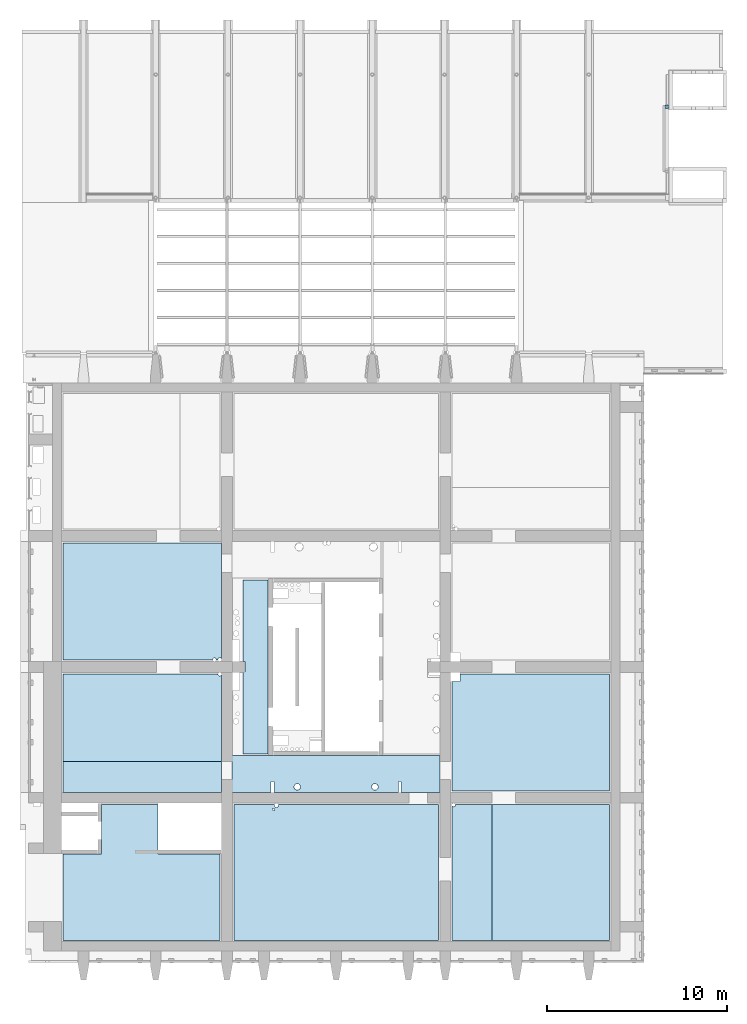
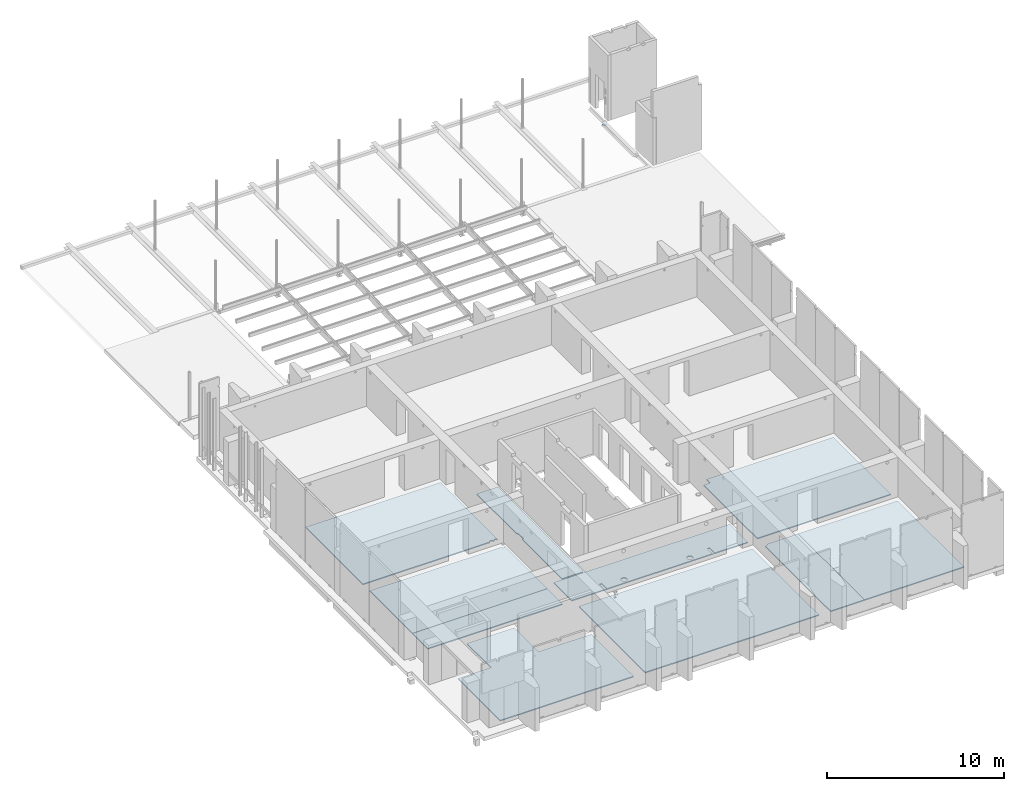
# One storey, part 23 of 31: 10 slabs, 1 beam, 58 openings.
"""IFC2X3 building model written with IfcOpenShell, lengths in millimetres."""

from ifc_helpers import new_model, entity, si_unit, converted_unit, derived_unit, direction, frame, frame_2d, origin, origin_2d_with_axis, place, context, subcontext, project, spatial, polyline, rectangle, circle, outline, extrude, source, transform, mapped, material, layer, layer_set, layer_usage, type_object, type_shapes, element, save


model = new_model("IFC2X3")

# Units and contexts
model_context = context("Model", 3, precision=0.01, world=origin(), true_north=direction((6.12303176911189e-17, 1.0)))
body_context = subcontext(model_context, "Body", "Model", "MODEL_VIEW")
ifc_project = project(units=[si_unit("LENGTHUNIT", "METRE", prefix="MILLI"), si_unit("AREAUNIT", "SQUARE_METRE"), si_unit("VOLUMEUNIT", "CUBIC_METRE"), converted_unit("PLANEANGLEUNIT", "DEGREE", entity("IfcRatioMeasure", 0.0174532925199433), si_unit("PLANEANGLEUNIT", "RADIAN"), dimensions=[0, 0, 0, 0, 0, 0, 0]), si_unit("MASSUNIT", "GRAM", prefix="KILO"), derived_unit("MASSDENSITYUNIT", [(si_unit("MASSUNIT", "GRAM", prefix="KILO"), 1), (si_unit("LENGTHUNIT", "METRE"), -3)]), si_unit("TIMEUNIT", "SECOND"), si_unit("FREQUENCYUNIT", "HERTZ"), si_unit("THERMODYNAMICTEMPERATUREUNIT", "DEGREE_CELSIUS"), derived_unit("THERMALTRANSMITTANCEUNIT", [(si_unit("MASSUNIT", "GRAM", prefix="KILO"), 1), (si_unit("THERMODYNAMICTEMPERATUREUNIT", "KELVIN"), -1), (si_unit("TIMEUNIT", "SECOND"), -3)]), derived_unit("VOLUMETRICFLOWRATEUNIT", [(si_unit("LENGTHUNIT", "METRE"), 3), (si_unit("TIMEUNIT", "SECOND"), -1)]), si_unit("ELECTRICCURRENTUNIT", "AMPERE"), si_unit("ELECTRICVOLTAGEUNIT", "VOLT"), si_unit("POWERUNIT", "WATT"), si_unit("FORCEUNIT", "NEWTON", prefix="KILO"), si_unit("ILLUMINANCEUNIT", "LUX"), si_unit("LUMINOUSFLUXUNIT", "LUMEN"), si_unit("LUMINOUSINTENSITYUNIT", "CANDELA"), derived_unit("USERDEFINED", [(si_unit("MASSUNIT", "GRAM", prefix="KILO"), -1), (si_unit("LENGTHUNIT", "METRE"), -2), (si_unit("TIMEUNIT", "SECOND"), 3), (si_unit("LUMINOUSFLUXUNIT", "LUMEN"), 1)]), derived_unit("LINEARVELOCITYUNIT", [(si_unit("LENGTHUNIT", "METRE"), 1), (si_unit("TIMEUNIT", "SECOND"), -1)]), si_unit("PRESSUREUNIT", "PASCAL"), derived_unit("USERDEFINED", [(si_unit("LENGTHUNIT", "METRE"), -2), (si_unit("MASSUNIT", "GRAM", prefix="KILO"), 1), (si_unit("TIMEUNIT", "SECOND"), -2)])], contexts=[model_context])

# Site, building, storey
site_placement = place(None, origin())
site = spatial("IfcSite", under=ifc_project, at=site_placement, Name="Default", CompositionType="ELEMENT")
building_placement = place(site_placement, origin())
building = spatial("IfcBuilding", under=site, at=building_placement, Name="niet gebruiken", CompositionType="ELEMENT")
storey_placement = place(building_placement, frame((0.0, 0.0, 12000.0)))
storey = spatial("IfcBuildingStorey", under=building, at=storey_placement, Name="03 derde verdieping", CompositionType="ELEMENT", Elevation=12000.0)

# Beam
ifc_material_1 = material(Name="NLRS_h2_staal")
beam_type = type_object("IfcBeamType", Name="ligger stripstaal RECT_200x20", PredefinedType="BEAM", material=ifc_material_1)
shared_shape = source(origin(), body_context, "Body", "SweptSolid", [
    extrude(rectangle(XDim=199.999999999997, YDim=200.0, at=origin_2d_with_axis()), frame((0.0, 0.0, -10.0), z_axis=(0.0, 0.0, 1.0), x_axis=(-1.0, 0.0, 0.0)), (0.0, 0.0, 1.0), 20.0),
    extrude(rectangle(XDim=199.999999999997, YDim=200.0, at=origin_2d_with_axis()), frame((0.0, 0.0, -10.0), z_axis=(0.0, 0.0, 1.0), x_axis=(-1.0, 0.0, 0.0)), (0.0, 0.0, 1.0), 20.0),
])
type_shapes(beam_type, [shared_shape])
beam_placement = place(storey_placement, frame((160070.0, 48550.0, 1115.0), z_axis=(0.0, 0.0, 1.0), x_axis=(0.0, -1.0, 0.0)))
element("IfcBeam", 1, at=beam_placement, inside=storey, type_object=beam_type, material=ifc_material_1, Name="NLRS_28.11_SF_WPB_stalen ligger stripstaal_gen:ligger stripstaal RECT_200x20", ObjectType="ligger stripstaal RECT_200x20", context=body_context, shape_type="MappedRepresentation", body=[
    mapped(shared_shape, transform((0.0, 0.0, 0.0), scale=1.0)),
])

# Slab, openings
ifc_material_2 = material(Name="NLRS_f2_beton prefab")
ifc_layer = layer(ifc_material_2, 70.0)
ifc_layer_set = layer_set([ifc_layer], Name="Floor:NLRS_23.21_FL_breedplaat d=70_gen")
ifc_layer_usage_1 = layer_usage(ifc_layer_set, "AXIS3", "POSITIVE", 0.0)
slab_1_placement = place(storey_placement, frame((126600.0, 2350.0, -360.0)))
slab_1 = element("IfcSlab", 2, at=slab_1_placement, inside=storey, material=ifc_layer_usage_1, Name="Floor:NLRS_23.21_FL_breedplaat d=70_gen", ObjectType="Floor:NLRS_23.21_FL_breedplaat d=70_gen", PredefinedType="FLOOR", context=body_context, shape_type="SweptSolid", body=[
    extrude(outline(polyline([(3180.0, -4958.0), (11900.0, -4958.0), (11900.0, -178.0), (9740.0, -178.0), (9740.0, 2562.0), (6630.0, 2562.0), (6630.0, -178.0), (3180.0, -178.0), (3180.0, -4958.0)])), frame((11900.0, 4958.0, 70.0), z_axis=(0.0, 0.0, -1.0), x_axis=(-1.0, 0.0, 0.0)), (0.0, 0.0, 1.0), 69.9999999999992),
])
placement_1 = place(slab_1_placement, origin())
element("IfcOpeningElement", 3, at=placement_1, cuts=slab_1, ObjectType="Opening", context=body_context, shape_type="SweptSolid", body=[
    extrude(circle(Radius=100.0, at=origin_2d_with_axis()), frame((21660.0, 7500.0, 0.0), z_axis=(0.0, 0.0, 1.0), x_axis=(0.0, 1.0, 0.0)), (0.0, 0.0, 1.0), 269.999999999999),
])
placement_2 = place(slab_1_placement, origin())
element("IfcOpeningElement", 4, at=placement_2, cuts=slab_1, ObjectType="Opening", context=body_context, shape_type="SweptSolid", body=[
    extrude(circle(Radius=120.0, at=origin_2d_with_axis()), frame((11840.0, 7480.0, 0.0), z_axis=(0.0, 0.0, 1.0), x_axis=(0.0, 1.0, 0.0)), (0.0, 0.0, 1.0), 269.999999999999),
])
placement_3 = place(slab_1_placement, origin())
element("IfcOpeningElement", 5, at=placement_3, cuts=slab_1, ObjectType="Opening", context=body_context, shape_type="SweptSolid", body=[
    extrude(circle(Radius=62.5, at=origin_2d_with_axis()), frame((11682.0, 7250.0, 0.0), z_axis=(0.0, 0.0, 1.0), x_axis=(0.0, 1.0, 0.0)), (0.0, 0.0, 1.0), 269.999999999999),
])

slab_2_placement = place(storey_placement, frame((126600.0, 2350.0, -360.0)))
slab_2 = element("IfcSlab", 6, at=slab_2_placement, inside=storey, material=ifc_layer_usage_1, Name="Floor:NLRS_23.21_FL_breedplaat d=70_gen:2", ObjectType="Floor:NLRS_23.21_FL_breedplaat d=70_gen", PredefinedType="FLOOR", context=body_context, shape_type="SweptSolid", body=[
    extrude(rectangle(XDim=7520.00000000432, YDim=2219.99999999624, at=frame_2d((-10790.0, -1198.0), x_axis=(0.0, -1.0))), frame((11900.0, 4958.0, 70.0), z_axis=(0.0, 0.0, -1.0), x_axis=(-1.0, 0.0, 0.0)), (0.0, 0.0, 1.0), 69.9999999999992),
])
element("IfcOpeningElement", 7, at=placement_1, cuts=slab_2, ObjectType="Opening", context=body_context, shape_type="SweptSolid", body=[
    extrude(circle(Radius=100.0, at=origin_2d_with_axis()), frame((21660.0, 7500.0, 0.0), z_axis=(0.0, 0.0, 1.0), x_axis=(0.0, 1.0, 0.0)), (0.0, 0.0, 1.0), 269.999999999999),
])
element("IfcOpeningElement", 8, at=placement_2, cuts=slab_2, ObjectType="Opening", context=body_context, shape_type="SweptSolid", body=[
    extrude(circle(Radius=120.0, at=origin_2d_with_axis()), frame((11840.0, 7480.0, 0.0), z_axis=(0.0, 0.0, 1.0), x_axis=(0.0, 1.0, 0.0)), (0.0, 0.0, 1.0), 269.999999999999),
])
element("IfcOpeningElement", 9, at=placement_3, cuts=slab_2, ObjectType="Opening", context=body_context, shape_type="SweptSolid", body=[
    extrude(circle(Radius=62.5, at=origin_2d_with_axis()), frame((11682.0, 7250.0, 0.0), z_axis=(0.0, 0.0, 1.0), x_axis=(0.0, 1.0, 0.0)), (0.0, 0.0, 1.0), 269.999999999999),
])

slab_3_placement = place(storey_placement, frame((126600.0, 2350.0, -360.0)))
slab_3 = element("IfcSlab", 10, at=slab_3_placement, inside=storey, material=ifc_layer_usage_1, Name="Floor:NLRS_23.21_FL_breedplaat d=70_gen:3", ObjectType="Floor:NLRS_23.21_FL_breedplaat d=70_gen", PredefinedType="FLOOR", context=body_context, shape_type="SweptSolid", body=[
    extrude(rectangle(XDim=7520.0000000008, YDim=11340.0000000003, at=frame_2d((-3250.0, -1198.0), x_axis=(0.0, 1.0))), frame((11900.0, 4958.0, 70.0), z_axis=(0.0, 0.0, -1.0), x_axis=(-1.0, 0.0, 0.0)), (0.0, 0.0, 1.0), 69.9999999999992),
])
element("IfcOpeningElement", 11, at=placement_1, cuts=slab_3, ObjectType="Opening", context=body_context, shape_type="SweptSolid", body=[
    extrude(circle(Radius=100.0, at=origin_2d_with_axis()), frame((21660.0, 7500.0, 0.0), z_axis=(0.0, 0.0, 1.0), x_axis=(0.0, 1.0, 0.0)), (0.0, 0.0, 1.0), 269.999999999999),
])
element("IfcOpeningElement", 12, at=placement_2, cuts=slab_3, ObjectType="Opening", context=body_context, shape_type="SweptSolid", body=[
    extrude(circle(Radius=120.0, at=origin_2d_with_axis()), frame((11840.0, 7480.0, 0.0), z_axis=(0.0, 0.0, 1.0), x_axis=(0.0, 1.0, 0.0)), (0.0, 0.0, 1.0), 269.999999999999),
])
element("IfcOpeningElement", 13, at=placement_3, cuts=slab_3, ObjectType="Opening", context=body_context, shape_type="SweptSolid", body=[
    extrude(circle(Radius=62.5, at=origin_2d_with_axis()), frame((11682.0, 7250.0, 0.0), z_axis=(0.0, 0.0, 1.0), x_axis=(0.0, 1.0, 0.0)), (0.0, 0.0, 1.0), 269.999999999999),
])

slab_4_placement = place(storey_placement, frame((126600.0, 2350.0, -360.0)))
slab_4 = element("IfcSlab", 14, at=slab_4_placement, inside=storey, material=ifc_layer_usage_1, Name="Floor:NLRS_23.21_FL_breedplaat d=70_gen:4", ObjectType="Floor:NLRS_23.21_FL_breedplaat d=70_gen", PredefinedType="FLOOR", context=body_context, shape_type="SweptSolid", body=[
    extrude(rectangle(XDim=8810.00000000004, YDim=1725.99999999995, at=frame_2d((7495.0, 4095.0), x_axis=(-1.0, 0.0))), frame((11900.0, 4958.0, 70.0), z_axis=(0.0, 0.0, -1.0), x_axis=(-1.0, 0.0, 0.0)), (0.0, 0.0, 1.0), 69.9999999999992),
])
element("IfcOpeningElement", 15, at=placement_1, cuts=slab_4, ObjectType="Opening", context=body_context, shape_type="SweptSolid", body=[
    extrude(circle(Radius=100.0, at=origin_2d_with_axis()), frame((21660.0, 7500.0, 0.0), z_axis=(0.0, 0.0, 1.0), x_axis=(0.0, 1.0, 0.0)), (0.0, 0.0, 1.0), 269.999999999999),
])
element("IfcOpeningElement", 16, at=placement_2, cuts=slab_4, ObjectType="Opening", context=body_context, shape_type="SweptSolid", body=[
    extrude(circle(Radius=120.0, at=origin_2d_with_axis()), frame((11840.0, 7480.0, 0.0), z_axis=(0.0, 0.0, 1.0), x_axis=(0.0, 1.0, 0.0)), (0.0, 0.0, 1.0), 269.999999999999),
])
element("IfcOpeningElement", 17, at=placement_3, cuts=slab_4, ObjectType="Opening", context=body_context, shape_type="SweptSolid", body=[
    extrude(circle(Radius=62.5, at=origin_2d_with_axis()), frame((11682.0, 7250.0, 0.0), z_axis=(0.0, 0.0, 1.0), x_axis=(0.0, 1.0, 0.0)), (0.0, 0.0, 1.0), 269.999999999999),
])

ifc_layer_usage_2 = layer_usage(ifc_layer_set, "AXIS3", "POSITIVE", 0.0)
slab_5_placement = place(storey_placement, frame((148180.0, 2350.0, -360.0)))
slab_5 = element("IfcSlab", 18, at=slab_5_placement, inside=storey, material=ifc_layer_usage_2, Name="Floor:NLRS_23.21_FL_breedplaat d=70_gen:2", ObjectType="Floor:NLRS_23.21_FL_breedplaat d=70_gen", PredefinedType="FLOOR", context=body_context, shape_type="SweptSolid", body=[
    extrude(rectangle(XDim=7520.00000000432, YDim=6499.99999999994, at=frame_2d((-1110.0, -8785.0), x_axis=(0.0, -1.0))), frame((4360.0, 12545.0, 70.0), z_axis=(0.0, 0.0, -1.0), x_axis=(-1.0, 0.0, 0.0)), (0.0, 0.0, 1.0), 69.9999999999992),
])
placement_4 = place(storey_placement, frame((148180.0, 2350.0, -360.0)))
placement_5 = place(placement_4, origin())
element("IfcOpeningElement", 19, at=placement_5, cuts=slab_5, ObjectType="Opening", context=body_context, shape_type="SweptSolid", body=[
    extrude(rectangle(XDim=500.000000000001, YDim=500.000000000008, at=origin_2d_with_axis()), frame((170.0, 14600.0, 0.0), z_axis=(0.0, 0.0, 1.0), x_axis=(0.0, 1.0, 0.0)), (0.0, 0.0, 1.0), 269.999999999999),
])
placement_6 = place(placement_4, origin())
element("IfcOpeningElement", 20, at=placement_6, cuts=slab_5, ObjectType="Opening", context=body_context, shape_type="SweptSolid", body=[
    extrude(rectangle(XDim=500.000000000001, YDim=500.000000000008, at=origin_2d_with_axis()), frame((170.0, 15700.0, 0.0), z_axis=(0.0, 0.0, 1.0), x_axis=(0.0, 1.0, 0.0)), (0.0, 0.0, 1.0), 269.999999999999),
])
placement_7 = place(placement_4, origin())
element("IfcOpeningElement", 21, at=placement_7, cuts=slab_5, ObjectType="Opening", context=body_context, shape_type="SweptSolid", body=[
    extrude(circle(Radius=100.0, at=origin_2d_with_axis()), frame((220.0, 22800.0, 0.0), z_axis=(0.0, 0.0, 1.0), x_axis=(0.0, 1.0, 0.0)), (0.0, 0.0, 1.0), 269.999999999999),
])
placement_8 = place(placement_4, origin())
element("IfcOpeningElement", 22, at=placement_8, cuts=slab_5, ObjectType="Opening", context=body_context, shape_type="SweptSolid", body=[
    extrude(circle(Radius=62.5, at=origin_2d_with_axis()), frame((70.0, 22950.0, 0.0), z_axis=(0.0, 0.0, 1.0), x_axis=(0.0, 1.0, 0.0)), (0.0, 0.0, 1.0), 269.999999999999),
])

slab_6_placement = place(storey_placement, frame((148180.0, 2350.0, -360.0)))
slab_6 = element("IfcSlab", 23, at=slab_6_placement, inside=storey, material=ifc_layer_usage_2, Name="Floor:NLRS_23.21_FL_breedplaat d=70_gen:3", ObjectType="Floor:NLRS_23.21_FL_breedplaat d=70_gen", PredefinedType="FLOOR", context=body_context, shape_type="SweptSolid", body=[
    extrude(rectangle(XDim=8719.99999999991, YDim=6489.99999999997, at=frame_2d((0.0, -1020.0), x_axis=(1.0, 0.0))), frame((4360.0, 12545.0, 70.0), z_axis=(0.0, 0.0, -1.0), x_axis=(-1.0, 0.0, 0.0)), (0.0, 0.0, 1.0), 69.9999999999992),
])
element("IfcOpeningElement", 24, at=placement_5, cuts=slab_6, ObjectType="Opening", context=body_context, shape_type="SweptSolid", body=[
    extrude(rectangle(XDim=500.000000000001, YDim=500.000000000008, at=origin_2d_with_axis()), frame((170.0, 14600.0, 0.0), z_axis=(0.0, 0.0, 1.0), x_axis=(0.0, 1.0, 0.0)), (0.0, 0.0, 1.0), 269.999999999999),
])
element("IfcOpeningElement", 25, at=placement_6, cuts=slab_6, ObjectType="Opening", context=body_context, shape_type="SweptSolid", body=[
    extrude(rectangle(XDim=500.000000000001, YDim=500.000000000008, at=origin_2d_with_axis()), frame((170.0, 15700.0, 0.0), z_axis=(0.0, 0.0, 1.0), x_axis=(0.0, 1.0, 0.0)), (0.0, 0.0, 1.0), 269.999999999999),
])
element("IfcOpeningElement", 26, at=placement_7, cuts=slab_6, ObjectType="Opening", context=body_context, shape_type="SweptSolid", body=[
    extrude(circle(Radius=100.0, at=origin_2d_with_axis()), frame((220.0, 22800.0, 0.0), z_axis=(0.0, 0.0, 1.0), x_axis=(0.0, 1.0, 0.0)), (0.0, 0.0, 1.0), 269.999999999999),
])
element("IfcOpeningElement", 27, at=placement_8, cuts=slab_6, ObjectType="Opening", context=body_context, shape_type="SweptSolid", body=[
    extrude(circle(Radius=62.5, at=origin_2d_with_axis()), frame((70.0, 22950.0, 0.0), z_axis=(0.0, 0.0, 1.0), x_axis=(0.0, 1.0, 0.0)), (0.0, 0.0, 1.0), 269.999999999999),
])

ifc_layer_usage_3 = layer_usage(ifc_layer_set, "AXIS3", "POSITIVE", 0.0)
slab_7_placement = place(storey_placement, frame((126600.0, 12266.0, -360.0)))
slab_7 = element("IfcSlab", 28, at=slab_7_placement, inside=storey, material=ifc_layer_usage_3, Name="Floor:NLRS_23.21_FL_breedplaat d=70_gen:2", ObjectType="Floor:NLRS_23.21_FL_breedplaat d=70_gen", PredefinedType="FLOOR", context=body_context, shape_type="SweptSolid", body=[
    extrude(rectangle(XDim=6490.00000000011, YDim=8810.00000000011, at=frame_2d((0.0, -1333.0), x_axis=(0.0, -1.0))), frame((4405.0, 10192.0, 70.0), z_axis=(0.0, 0.0, -1.0), x_axis=(-1.0, 0.0, 0.0)), (0.0, 0.0, 1.0), 69.9999999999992),
])
placement_9 = place(storey_placement, frame((126600.0, 12266.0, -360.0)))
placement_10 = place(placement_9, origin())
element("IfcOpeningElement", 29, at=placement_10, cuts=slab_7, ObjectType="Opening", context=body_context, shape_type="SweptSolid", body=[
    extrude(circle(Radius=100.0, at=origin_2d_with_axis()), frame((8400.0, 5634.0, 0.0), z_axis=(0.0, 0.0, 1.0), x_axis=(0.0, 1.0, 0.0)), (0.0, 0.0, 1.0), 269.999999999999),
])
placement_11 = place(placement_9, origin())
element("IfcOpeningElement", 30, at=placement_11, cuts=slab_7, ObjectType="Opening", context=body_context, shape_type="SweptSolid", body=[
    extrude(circle(Radius=100.0, at=origin_2d_with_axis()), frame((8700.0, 5634.0, 0.0), z_axis=(0.0, 0.0, 1.0), x_axis=(0.0, 1.0, 0.0)), (0.0, 0.0, 1.0), 269.999999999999),
])
placement_12 = place(placement_9, origin())
element("IfcOpeningElement", 31, at=placement_12, cuts=slab_7, ObjectType="Opening", context=body_context, shape_type="SweptSolid", body=[
    extrude(circle(Radius=100.0, at=origin_2d_with_axis()), frame((8700.0, 4834.0, 0.0), z_axis=(0.0, 0.0, 1.0), x_axis=(0.0, 1.0, 0.0)), (0.0, 0.0, 1.0), 269.999999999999),
])

slab_8_placement = place(storey_placement, frame((126600.0, 12266.0, -360.0)))
slab_8 = element("IfcSlab", 32, at=slab_8_placement, inside=storey, material=ifc_layer_usage_3, Name="Floor:NLRS_23.21_FL_breedplaat d=70_gen:3", ObjectType="Floor:NLRS_23.21_FL_breedplaat d=70_gen", PredefinedType="FLOOR", context=body_context, shape_type="SweptSolid", body=[
    extrude(rectangle(XDim=8810.00000000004, YDim=4854.00000000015, at=frame_2d((0.0, -7765.0), x_axis=(-1.0, 0.0))), frame((4405.0, 10192.0, 70.0), z_axis=(0.0, 0.0, -1.0), x_axis=(-1.0, 0.0, 0.0)), (0.0, 0.0, 1.0), 69.9999999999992),
])
element("IfcOpeningElement", 33, at=placement_10, cuts=slab_8, ObjectType="Opening", context=body_context, shape_type="SweptSolid", body=[
    extrude(circle(Radius=100.0, at=origin_2d_with_axis()), frame((8400.0, 5634.0, 0.0), z_axis=(0.0, 0.0, 1.0), x_axis=(0.0, 1.0, 0.0)), (0.0, 0.0, 1.0), 269.999999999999),
])
element("IfcOpeningElement", 34, at=placement_11, cuts=slab_8, ObjectType="Opening", context=body_context, shape_type="SweptSolid", body=[
    extrude(circle(Radius=100.0, at=origin_2d_with_axis()), frame((8700.0, 5634.0, 0.0), z_axis=(0.0, 0.0, 1.0), x_axis=(0.0, 1.0, 0.0)), (0.0, 0.0, 1.0), 269.999999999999),
])
element("IfcOpeningElement", 35, at=placement_12, cuts=slab_8, ObjectType="Opening", context=body_context, shape_type="SweptSolid", body=[
    extrude(circle(Radius=100.0, at=origin_2d_with_axis()), frame((8700.0, 4834.0, 0.0), z_axis=(0.0, 0.0, 1.0), x_axis=(0.0, 1.0, 0.0)), (0.0, 0.0, 1.0), 269.999999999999),
])

ifc_layer_usage_4 = layer_usage(ifc_layer_set, "AXIS3", "POSITIVE", 0.0)
slab_9_placement = place(storey_placement, frame((135990.0, 10540.0, -330.0)))
slab_9 = element("IfcSlab", 36, at=slab_9_placement, inside=storey, material=ifc_layer_usage_4, Name="Floor:NLRS_23.21_FL_breedplaat d=70_gen", ObjectType="Floor:NLRS_23.21_FL_breedplaat d=70_gen", PredefinedType="FLOOR", context=body_context, shape_type="SweptSolid", body=[
    extrude(outline(polyline([(5150.0, -4830.0), (5150.0, -290.0), (5060.0, -290.0), (5060.0, 290.0), (5150.0, 290.0), (5150.0, 4830.0), (3770.0, 4830.0), (3770.0, -4830.0), (5150.0, -4830.0)])), frame((5760.0, 6960.0, 70.0), z_axis=(0.0, 0.0, -1.0), x_axis=(-1.0, 0.0, 0.0)), (0.0, 0.0, 1.0), 69.9999999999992),
])
placement_13 = place(slab_9_placement, origin())
element("IfcOpeningElement", 37, at=placement_13, cuts=slab_9, ObjectType="Opening", context=body_context, shape_type="SweptSolid", body=[
    extrude(rectangle(XDim=150.000000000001, YDim=600.000000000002, at=origin_2d_with_axis()), frame((2234.97810195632, 13610.0, 0.0)), (0.0, 0.0, 1.0), 240.0),
])
placement_14 = place(slab_9_placement, origin())
element("IfcOpeningElement", 38, at=placement_14, cuts=slab_9, ObjectType="Opening", context=body_context, shape_type="SweptSolid", body=[
    extrude(rectangle(XDim=600.000000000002, YDim=155.000000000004, at=origin_2d_with_axis()), frame((11210.0, 6582.49999999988, 0.0)), (0.0, 0.0, 1.0), 240.0),
])
placement_15 = place(slab_9_placement, origin())
element("IfcOpeningElement", 39, at=placement_15, cuts=slab_9, ObjectType="Opening", context=body_context, shape_type="SweptSolid", body=[
    extrude(circle(Radius=157.5, at=origin_2d_with_axis()), frame((11310.0, 8664.95038231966, 0.0), z_axis=(0.0, 0.0, 1.0), x_axis=(0.0, 1.0, 0.0)), (0.0, 0.0, 1.0), 240.0),
])
placement_16 = place(slab_9_placement, origin())
element("IfcOpeningElement", 40, at=placement_16, cuts=slab_9, ObjectType="Opening", context=body_context, shape_type="SweptSolid", body=[
    extrude(rectangle(XDim=800.000000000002, YDim=140.000000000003, at=origin_2d_with_axis()), frame((11440.0, 7984.66819096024, 0.0), z_axis=(0.0, 0.0, 1.0), x_axis=(0.0, -1.0, 0.0)), (0.0, 0.0, 1.0), 240.0),
])
placement_17 = place(slab_9_placement, origin())
element("IfcOpeningElement", 41, at=placement_17, cuts=slab_9, ObjectType="Opening", context=body_context, shape_type="SweptSolid", body=[
    extrude(rectangle(XDim=150.000000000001, YDim=590.000000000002, at=origin_2d_with_axis()), frame((9285.0, 305.0, 0.0)), (0.0, 0.0, 1.0), 240.0),
])
placement_18 = place(slab_9_placement, origin())
element("IfcOpeningElement", 42, at=placement_18, cuts=slab_9, ObjectType="Opening", context=body_context, shape_type="SweptSolid", body=[
    extrude(rectangle(XDim=150.000000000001, YDim=600.000000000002, at=origin_2d_with_axis()), frame((9285.02189507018, 13610.0, 0.0)), (0.0, 0.0, 1.0), 240.0),
])
placement_19 = place(slab_9_placement, origin())
element("IfcOpeningElement", 43, at=placement_19, cuts=slab_9, ObjectType="Opening", context=body_context, shape_type="SweptSolid", body=[
    extrude(circle(Radius=225.0, at=origin_2d_with_axis()), frame((3710.0, 13610.0, 0.0), z_axis=(0.0, 0.0, 1.0), x_axis=(-1.0, 0.0, 0.0)), (0.0, 0.0, 1.0), 240.0),
])
placement_20 = place(slab_9_placement, origin())
element("IfcOpeningElement", 44, at=placement_20, cuts=slab_9, ObjectType="Opening", context=body_context, shape_type="SweptSolid", body=[
    extrude(circle(Radius=225.0, at=origin_2d_with_axis()), frame((7820.0, 13610.0, 0.0), z_axis=(0.0, 0.0, 1.0), x_axis=(-1.0, 0.0, 0.0)), (0.0, 0.0, 1.0), 240.0),
])
placement_21 = place(slab_9_placement, origin())
element("IfcOpeningElement", 45, at=placement_21, cuts=slab_9, ObjectType="Opening", context=body_context, shape_type="SweptSolid", body=[
    extrude(circle(Radius=157.5, at=origin_2d_with_axis()), frame((11310.0, 10459.9054766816, 0.0), z_axis=(0.0, 0.0, 1.0), x_axis=(0.0, 1.0, 0.0)), (0.0, 0.0, 1.0), 240.0),
])
placement_22 = place(slab_9_placement, origin())
element("IfcOpeningElement", 46, at=placement_22, cuts=slab_9, ObjectType="Opening", context=body_context, shape_type="SweptSolid", body=[
    extrude(circle(Radius=177.5, at=origin_2d_with_axis()), frame((11311.1443647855, 5255.0, 0.0), z_axis=(0.0, 0.0, 1.0), x_axis=(0.0, 1.0, 0.0)), (0.0, 0.0, 1.0), 240.0),
])
placement_23 = place(slab_9_placement, origin())
element("IfcOpeningElement", 47, at=placement_23, cuts=slab_9, ObjectType="Opening", context=body_context, shape_type="SweptSolid", body=[
    extrude(circle(Radius=177.5, at=origin_2d_with_axis()), frame((11309.0502495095, 3460.0, 0.0), z_axis=(0.0, 0.0, 1.0), x_axis=(0.0, 1.0, 0.0)), (0.0, 0.0, 1.0), 240.0),
])
placement_24 = place(slab_9_placement, origin())
element("IfcOpeningElement", 48, at=placement_24, cuts=slab_9, ObjectType="Opening", context=body_context, shape_type="SweptSolid", body=[
    extrude(circle(Radius=177.5, at=origin_2d_with_axis()), frame((7910.0, 310.0, 0.0), z_axis=(0.0, 0.0, 1.0), x_axis=(-1.0, 0.0, 0.0)), (0.0, 0.0, 1.0), 240.0),
])
placement_25 = place(slab_9_placement, origin())
element("IfcOpeningElement", 49, at=placement_25, cuts=slab_9, ObjectType="Opening", context=body_context, shape_type="SweptSolid", body=[
    extrude(circle(Radius=177.5, at=origin_2d_with_axis()), frame((3605.0, 310.0, 0.0), z_axis=(0.0, 0.0, 1.0), x_axis=(-1.0, 0.0, 0.0)), (0.0, 0.0, 1.0), 240.0),
])
placement_26 = place(slab_9_placement, origin())
element("IfcOpeningElement", 50, at=placement_26, cuts=slab_9, ObjectType="Opening", context=body_context, shape_type="SweptSolid", body=[
    extrude(rectangle(XDim=150.000000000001, YDim=590.000000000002, at=origin_2d_with_axis()), frame((2234.97810195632, 304.908594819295, 0.0)), (0.0, 0.0, 1.0), 240.0),
])
placement_27 = place(slab_9_placement, origin())
element("IfcOpeningElement", 51, at=placement_27, cuts=slab_9, ObjectType="Opening", context=body_context, shape_type="SweptSolid", body=[
    extrude(circle(Radius=100.0, at=origin_2d_with_axis()), frame((5134.86122070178, 13809.950390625, 0.0), z_axis=(0.0, 0.0, 1.0), x_axis=(-1.0, 0.0, 0.0)), (0.0, 0.0, 1.0), 240.0),
])
placement_28 = place(slab_9_placement, origin())
element("IfcOpeningElement", 52, at=placement_28, cuts=slab_9, ObjectType="Opening", context=body_context, shape_type="SweptSolid", body=[
    extrude(circle(Radius=100.0, at=origin_2d_with_axis()), frame((5344.25647816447, 13809.950390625, 0.0), z_axis=(0.0, 0.0, 1.0), x_axis=(-1.0, 0.0, 0.0)), (0.0, 0.0, 1.0), 240.0),
])

slab_10_placement = place(storey_placement, frame((135990.0, 10540.0, -330.0)))
slab_10 = element("IfcSlab", 53, at=slab_10_placement, inside=storey, material=ifc_layer_usage_4, Name="Floor:NLRS_23.21_FL_breedplaat d=70_gen:2", ObjectType="Floor:NLRS_23.21_FL_breedplaat d=70_gen", PredefinedType="FLOOR", context=body_context, shape_type="SweptSolid", body=[
    extrude(rectangle(XDim=2039.99999999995, YDim=11520.0, at=frame_2d((0.0, -5940.0), x_axis=(0.0, 1.0))), frame((5760.0, 6960.0, 70.0), z_axis=(0.0, 0.0, -1.0), x_axis=(-1.0, 0.0, 0.0)), (0.0, 0.0, 1.0), 69.9999999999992),
])
element("IfcOpeningElement", 54, at=placement_13, cuts=slab_10, ObjectType="Opening", context=body_context, shape_type="SweptSolid", body=[
    extrude(rectangle(XDim=150.000000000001, YDim=600.000000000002, at=origin_2d_with_axis()), frame((2234.97810195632, 13610.0, 0.0)), (0.0, 0.0, 1.0), 240.0),
])
element("IfcOpeningElement", 55, at=placement_14, cuts=slab_10, ObjectType="Opening", context=body_context, shape_type="SweptSolid", body=[
    extrude(rectangle(XDim=600.000000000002, YDim=155.000000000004, at=origin_2d_with_axis()), frame((11210.0, 6582.49999999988, 0.0)), (0.0, 0.0, 1.0), 240.0),
])
element("IfcOpeningElement", 56, at=placement_15, cuts=slab_10, ObjectType="Opening", context=body_context, shape_type="SweptSolid", body=[
    extrude(circle(Radius=157.5, at=origin_2d_with_axis()), frame((11310.0, 8664.95038231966, 0.0), z_axis=(0.0, 0.0, 1.0), x_axis=(0.0, 1.0, 0.0)), (0.0, 0.0, 1.0), 240.0),
])
element("IfcOpeningElement", 57, at=placement_16, cuts=slab_10, ObjectType="Opening", context=body_context, shape_type="SweptSolid", body=[
    extrude(rectangle(XDim=800.000000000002, YDim=140.000000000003, at=origin_2d_with_axis()), frame((11440.0, 7984.66819096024, 0.0), z_axis=(0.0, 0.0, 1.0), x_axis=(0.0, -1.0, 0.0)), (0.0, 0.0, 1.0), 240.0),
])
element("IfcOpeningElement", 58, at=placement_17, cuts=slab_10, ObjectType="Opening", context=body_context, shape_type="SweptSolid", body=[
    extrude(rectangle(XDim=150.000000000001, YDim=590.000000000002, at=origin_2d_with_axis()), frame((9285.0, 305.0, 0.0)), (0.0, 0.0, 1.0), 240.0),
])
element("IfcOpeningElement", 59, at=placement_18, cuts=slab_10, ObjectType="Opening", context=body_context, shape_type="SweptSolid", body=[
    extrude(rectangle(XDim=150.000000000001, YDim=600.000000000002, at=origin_2d_with_axis()), frame((9285.02189507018, 13610.0, 0.0)), (0.0, 0.0, 1.0), 240.0),
])
element("IfcOpeningElement", 60, at=placement_19, cuts=slab_10, ObjectType="Opening", context=body_context, shape_type="SweptSolid", body=[
    extrude(circle(Radius=225.0, at=origin_2d_with_axis()), frame((3710.0, 13610.0, 0.0), z_axis=(0.0, 0.0, 1.0), x_axis=(-1.0, 0.0, 0.0)), (0.0, 0.0, 1.0), 240.0),
])
element("IfcOpeningElement", 61, at=placement_20, cuts=slab_10, ObjectType="Opening", context=body_context, shape_type="SweptSolid", body=[
    extrude(circle(Radius=225.0, at=origin_2d_with_axis()), frame((7820.0, 13610.0, 0.0), z_axis=(0.0, 0.0, 1.0), x_axis=(-1.0, 0.0, 0.0)), (0.0, 0.0, 1.0), 240.0),
])
element("IfcOpeningElement", 62, at=placement_21, cuts=slab_10, ObjectType="Opening", context=body_context, shape_type="SweptSolid", body=[
    extrude(circle(Radius=157.5, at=origin_2d_with_axis()), frame((11310.0, 10459.9054766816, 0.0), z_axis=(0.0, 0.0, 1.0), x_axis=(0.0, 1.0, 0.0)), (0.0, 0.0, 1.0), 240.0),
])
element("IfcOpeningElement", 63, at=placement_22, cuts=slab_10, ObjectType="Opening", context=body_context, shape_type="SweptSolid", body=[
    extrude(circle(Radius=177.5, at=origin_2d_with_axis()), frame((11311.1443647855, 5255.0, 0.0), z_axis=(0.0, 0.0, 1.0), x_axis=(0.0, 1.0, 0.0)), (0.0, 0.0, 1.0), 240.0),
])
element("IfcOpeningElement", 64, at=placement_23, cuts=slab_10, ObjectType="Opening", context=body_context, shape_type="SweptSolid", body=[
    extrude(circle(Radius=177.5, at=origin_2d_with_axis()), frame((11309.0502495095, 3460.0, 0.0), z_axis=(0.0, 0.0, 1.0), x_axis=(0.0, 1.0, 0.0)), (0.0, 0.0, 1.0), 240.0),
])
element("IfcOpeningElement", 65, at=placement_24, cuts=slab_10, ObjectType="Opening", context=body_context, shape_type="SweptSolid", body=[
    extrude(circle(Radius=177.5, at=origin_2d_with_axis()), frame((7910.0, 310.0, 0.0), z_axis=(0.0, 0.0, 1.0), x_axis=(-1.0, 0.0, 0.0)), (0.0, 0.0, 1.0), 240.0),
])
element("IfcOpeningElement", 66, at=placement_25, cuts=slab_10, ObjectType="Opening", context=body_context, shape_type="SweptSolid", body=[
    extrude(circle(Radius=177.5, at=origin_2d_with_axis()), frame((3605.0, 310.0, 0.0), z_axis=(0.0, 0.0, 1.0), x_axis=(-1.0, 0.0, 0.0)), (0.0, 0.0, 1.0), 240.0),
])
element("IfcOpeningElement", 67, at=placement_26, cuts=slab_10, ObjectType="Opening", context=body_context, shape_type="SweptSolid", body=[
    extrude(rectangle(XDim=150.000000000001, YDim=590.000000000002, at=origin_2d_with_axis()), frame((2234.97810195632, 304.908594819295, 0.0)), (0.0, 0.0, 1.0), 240.0),
])
element("IfcOpeningElement", 68, at=placement_27, cuts=slab_10, ObjectType="Opening", context=body_context, shape_type="SweptSolid", body=[
    extrude(circle(Radius=100.0, at=origin_2d_with_axis()), frame((5134.86122070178, 13809.950390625, 0.0), z_axis=(0.0, 0.0, 1.0), x_axis=(-1.0, 0.0, 0.0)), (0.0, 0.0, 1.0), 240.0),
])
element("IfcOpeningElement", 69, at=placement_28, cuts=slab_10, ObjectType="Opening", context=body_context, shape_type="SweptSolid", body=[
    extrude(circle(Radius=100.0, at=origin_2d_with_axis()), frame((5344.25647816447, 13809.950390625, 0.0), z_axis=(0.0, 0.0, 1.0), x_axis=(-1.0, 0.0, 0.0)), (0.0, 0.0, 1.0), 240.0),
])

save(model, "model.ifc")
